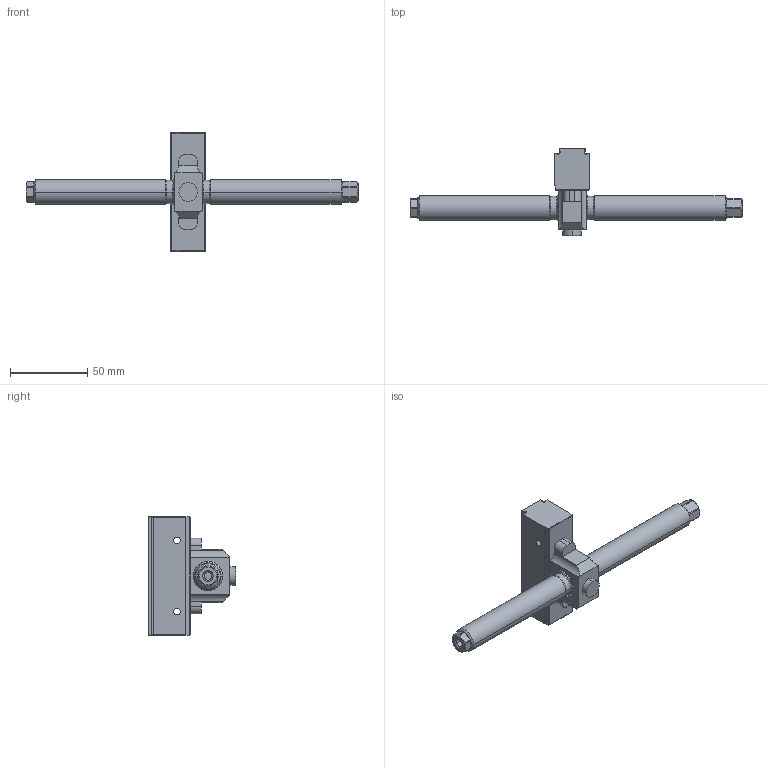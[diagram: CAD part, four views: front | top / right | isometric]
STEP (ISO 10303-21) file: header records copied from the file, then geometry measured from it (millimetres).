
FILE_DESCRIPTION (( 'STEP AP214' ), '1' );
FILE_NAME ('47200-TG17.STEP', '2023-02-10T12:49:52', ( '' ), ( '' ), 'SwSTEP 2.0', 'SolidWorks 2021', '' );
FILE_SCHEMA (( 'AUTOMOTIVE_DESIGN' ));
Length unit declared in the file: millimetre
Products named in the file (1): 47200-TG17
Bounding box: 215 x 56.4 x 76.6 mm (x, y, z)
Volume: 98601.2 mm3; surface area: 24088.4 mm2
Topology: 2 solids, 2 shells, 171 faces, 408 edges, 245 vertices
Faces by surface type: plane 88, cylinder 45, cone 30, torus 8
Entity records: 7023 total; most frequent: CARTESIAN_POINT 1125, DIRECTION 849, ORIENTED_EDGE 816, EDGE_CURVE 408, AXIS2_PLACEMENT_3D 309, VERTEX_POINT 245, LINE 231, VECTOR 231
